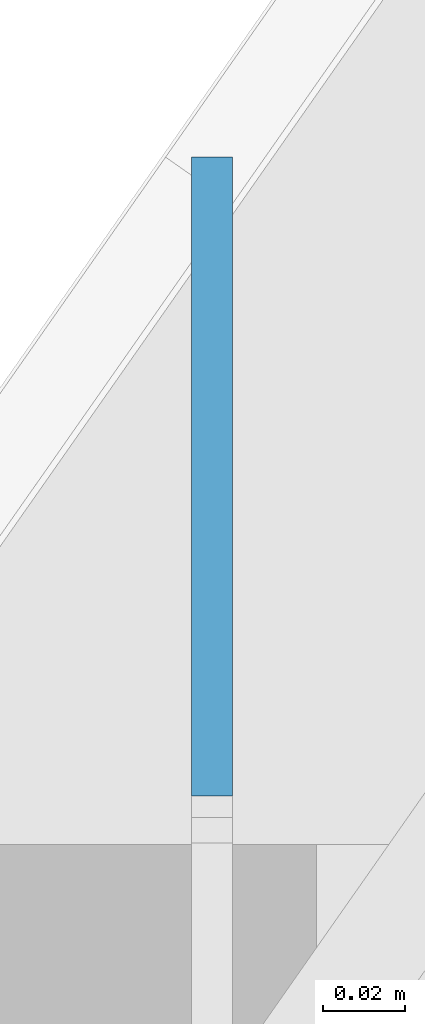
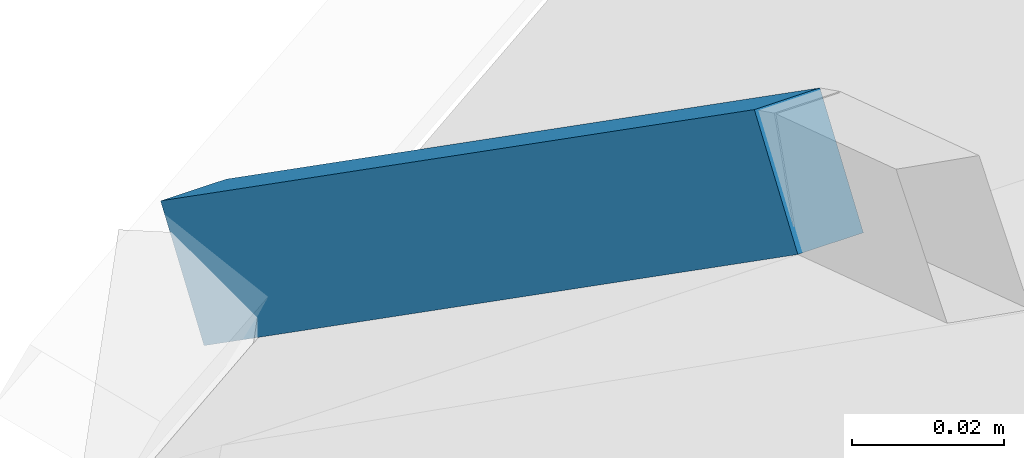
# One storey, part 306 of 583: 1 slab.
"""IFC2X3 building model written with IfcOpenShell, lengths in metres."""

from ifc_helpers import new_model, entity, si_unit, converted_unit, derived_unit, money_unit, direction, frame, origin_with_axes, place, context, subcontext, project, spatial, faceted_brep, material, type_object, element, save


model = new_model("IFC2X3")

# Units and contexts
model_context = context("Model", 3, precision=1e-05, world=origin_with_axes(), true_north=direction((0.0, 1.0)))
body_context = subcontext(model_context, "Body", "Model", "MODEL_VIEW", scale=1.0)
ifc_project = project(units=[si_unit("LENGTHUNIT", "METRE"), si_unit("AREAUNIT", "SQUARE_METRE"), si_unit("VOLUMEUNIT", "CUBIC_METRE"), si_unit("ABSORBEDDOSEUNIT", "GRAY"), si_unit("AMOUNTOFSUBSTANCEUNIT", "MOLE"), si_unit("DOSEEQUIVALENTUNIT", "SIEVERT"), si_unit("ELECTRICCAPACITANCEUNIT", "FARAD"), si_unit("ELECTRICCHARGEUNIT", "COULOMB"), si_unit("ELECTRICCONDUCTANCEUNIT", "SIEMENS"), si_unit("ELECTRICCURRENTUNIT", "AMPERE"), si_unit("ELECTRICRESISTANCEUNIT", "OHM"), si_unit("ELECTRICVOLTAGEUNIT", "VOLT"), si_unit("ENERGYUNIT", "JOULE"), si_unit("FORCEUNIT", "NEWTON"), si_unit("FREQUENCYUNIT", "HERTZ"), si_unit("ILLUMINANCEUNIT", "LUX"), si_unit("INDUCTANCEUNIT", "HENRY"), si_unit("LUMINOUSFLUXUNIT", "LUMEN"), si_unit("LUMINOUSINTENSITYUNIT", "CANDELA"), si_unit("MAGNETICFLUXDENSITYUNIT", "TESLA"), si_unit("MAGNETICFLUXUNIT", "WEBER"), si_unit("MASSUNIT", "GRAM"), converted_unit("PLANEANGLEUNIT", "degree", entity("IfcReal", 0.0174532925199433), si_unit("PLANEANGLEUNIT", "RADIAN"), dimensions=[0, 0, 0, 0, 0, 0, 0]), si_unit("POWERUNIT", "WATT"), si_unit("PRESSUREUNIT", "PASCAL"), si_unit("RADIOACTIVITYUNIT", "BECQUEREL"), si_unit("SOLIDANGLEUNIT", "STERADIAN"), si_unit("THERMODYNAMICTEMPERATUREUNIT", "KELVIN"), si_unit("TIMEUNIT", "SECOND"), derived_unit("ACCELERATIONUNIT", [(si_unit("LENGTHUNIT", "METRE"), 1), (si_unit("TIMEUNIT", "SECOND"), -2)]), derived_unit("ANGULARVELOCITYUNIT", [(converted_unit("PLANEANGLEUNIT", "degree", entity("IfcReal", 0.0174532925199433), si_unit("PLANEANGLEUNIT", "RADIAN"), dimensions=[0, 0, 0, 0, 0, 0, 0]), 1), (si_unit("TIMEUNIT", "SECOND"), -1)]), derived_unit("CURVATUREUNIT", [(converted_unit("PLANEANGLEUNIT", "degree", entity("IfcReal", 0.0174532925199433), si_unit("PLANEANGLEUNIT", "RADIAN"), dimensions=[0, 0, 0, 0, 0, 0, 0]), 1), (si_unit("LENGTHUNIT", "METRE"), -1)]), derived_unit("DYNAMICVISCOSITYUNIT", [(si_unit("PRESSUREUNIT", "PASCAL"), 1), (si_unit("TIMEUNIT", "SECOND"), 1)]), derived_unit("HEATFLUXDENSITYUNIT", [(si_unit("POWERUNIT", "WATT"), 1), (si_unit("LENGTHUNIT", "METRE"), -2)]), derived_unit("HEATINGVALUEUNIT", [(si_unit("ENERGYUNIT", "JOULE"), 1), (si_unit("MASSUNIT", "GRAM"), -1)]), derived_unit("INTEGERCOUNTRATEUNIT", [(si_unit("TIMEUNIT", "SECOND"), -1)]), derived_unit("IONCONCENTRATIONUNIT", [(si_unit("MASSUNIT", "GRAM"), 1), (si_unit("VOLUMEUNIT", "CUBIC_METRE"), -1)]), derived_unit("ISOTHERMALMOISTURECAPACITYUNIT", [(si_unit("VOLUMEUNIT", "CUBIC_METRE"), 1), (si_unit("MASSUNIT", "GRAM"), -1)]), derived_unit("KINEMATICVISCOSITYUNIT", [(si_unit("AREAUNIT", "SQUARE_METRE"), 1), (si_unit("TIMEUNIT", "SECOND"), -1)]), derived_unit("LINEARFORCEUNIT", [(si_unit("FORCEUNIT", "NEWTON"), 1), (si_unit("LENGTHUNIT", "METRE"), -1)]), derived_unit("LINEARMOMENTUNIT", [(si_unit("FORCEUNIT", "NEWTON"), 1), (si_unit("LENGTHUNIT", "METRE"), -1)]), derived_unit("LINEARSTIFFNESSUNIT", [(si_unit("FORCEUNIT", "NEWTON"), 1), (si_unit("LENGTHUNIT", "METRE"), -1)]), derived_unit("LINEARVELOCITYUNIT", [(si_unit("LENGTHUNIT", "METRE"), 1), (si_unit("TIMEUNIT", "SECOND"), -1)]), derived_unit("LUMINOUSINTENSITYDISTRIBUTIONUNIT", [(si_unit("LUMINOUSINTENSITYUNIT", "CANDELA"), 1), (si_unit("LUMINOUSFLUXUNIT", "LUMEN"), -1)]), derived_unit("MASSDENSITYUNIT", [(si_unit("MASSUNIT", "GRAM"), 1), (si_unit("VOLUMEUNIT", "CUBIC_METRE"), -1)]), derived_unit("MASSFLOWRATEUNIT", [(si_unit("MASSUNIT", "GRAM"), 1), (si_unit("TIMEUNIT", "SECOND"), -1)]), derived_unit("MASSPERLENGTHUNIT", [(si_unit("MASSUNIT", "GRAM"), 1), (si_unit("LENGTHUNIT", "METRE"), -1)]), derived_unit("MODULUSOFELASTICITYUNIT", [(si_unit("FORCEUNIT", "NEWTON"), 1), (si_unit("AREAUNIT", "SQUARE_METRE"), -1)]), derived_unit("MODULUSOFLINEARSUBGRADEREACTIONUNIT", [(si_unit("FORCEUNIT", "NEWTON"), 1), (si_unit("LENGTHUNIT", "METRE"), -2)]), derived_unit("MODULUSOFROTATIONALSUBGRADEREACTIONUNIT", [(si_unit("FORCEUNIT", "NEWTON"), 1), (si_unit("LENGTHUNIT", "METRE"), 1)]), derived_unit("MODULUSOFSUBGRADEREACTIONUNIT", [(si_unit("FORCEUNIT", "NEWTON"), 1), (si_unit("VOLUMEUNIT", "CUBIC_METRE"), -1)]), derived_unit("MOISTUREDIFFUSIVITYUNIT", [(si_unit("VOLUMEUNIT", "CUBIC_METRE"), 1), (si_unit("TIMEUNIT", "SECOND"), -1)]), derived_unit("MOLECULARWEIGHTUNIT", [(si_unit("MASSUNIT", "GRAM"), 1), (si_unit("AMOUNTOFSUBSTANCEUNIT", "MOLE"), -1)]), derived_unit("PLANARFORCEUNIT", [(si_unit("FORCEUNIT", "NEWTON"), 1), (si_unit("LENGTHUNIT", "METRE"), -2)]), derived_unit("ROTATIONALFREQUENCYUNIT", [(si_unit("TIMEUNIT", "SECOND"), -1)]), derived_unit("ROTATIONALMASSUNIT", [(si_unit("MASSUNIT", "GRAM"), 1), (si_unit("LENGTHUNIT", "METRE"), 2)]), derived_unit("ROTATIONALSTIFFNESSUNIT", [(si_unit("FORCEUNIT", "NEWTON"), 1), (si_unit("LENGTHUNIT", "METRE"), 1), (converted_unit("PLANEANGLEUNIT", "degree", entity("IfcReal", 0.0174532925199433), si_unit("PLANEANGLEUNIT", "RADIAN"), dimensions=[0, 0, 0, 0, 0, 0, 0]), -1)]), derived_unit("SECTIONAREAINTEGRALUNIT", [(si_unit("LENGTHUNIT", "METRE"), 5)]), derived_unit("SECTIONMODULUSUNIT", [(si_unit("LENGTHUNIT", "METRE"), 3)]), derived_unit("SHEARMODULUSUNIT", [(si_unit("FORCEUNIT", "NEWTON"), 1), (si_unit("AREAUNIT", "SQUARE_METRE"), -1)]), derived_unit("SOUNDPOWERUNIT", [(si_unit("ENERGYUNIT", "JOULE"), 1), (si_unit("TIMEUNIT", "SECOND"), -1)]), derived_unit("SPECIFICHEATCAPACITYUNIT", [(si_unit("FORCEUNIT", "NEWTON"), 1), (si_unit("MASSUNIT", "GRAM"), -1), (si_unit("THERMODYNAMICTEMPERATUREUNIT", "KELVIN"), -1)]), derived_unit("TEMPERATUREGRADIENTUNIT", [(si_unit("THERMODYNAMICTEMPERATUREUNIT", "KELVIN"), 1), (si_unit("LENGTHUNIT", "METRE"), -1)]), derived_unit("THERMALADMITTANCEUNIT", [(si_unit("POWERUNIT", "WATT"), 1), (si_unit("AREAUNIT", "SQUARE_METRE"), -1), (si_unit("THERMODYNAMICTEMPERATUREUNIT", "KELVIN"), -1)]), derived_unit("THERMALCONDUCTANCEUNIT", [(si_unit("POWERUNIT", "WATT"), 1), (si_unit("LENGTHUNIT", "METRE"), -1), (si_unit("THERMODYNAMICTEMPERATUREUNIT", "KELVIN"), -1)]), derived_unit("THERMALEXPANSIONCOEFFICIENTUNIT", [(si_unit("THERMODYNAMICTEMPERATUREUNIT", "KELVIN"), -1)]), derived_unit("THERMALRESISTANCEUNIT", [(si_unit("AREAUNIT", "SQUARE_METRE"), 1), (si_unit("POWERUNIT", "WATT"), -1)]), derived_unit("THERMALTRANSMITTANCEUNIT", [(si_unit("POWERUNIT", "WATT"), 1), (si_unit("AREAUNIT", "SQUARE_METRE"), -1), (si_unit("THERMODYNAMICTEMPERATUREUNIT", "KELVIN"), -1)]), derived_unit("TORQUEUNIT", [(si_unit("FORCEUNIT", "NEWTON"), 1), (si_unit("LENGTHUNIT", "METRE"), 1)]), derived_unit("VAPORPERMEABILITYUNIT", [(si_unit("MASSUNIT", "GRAM"), 1), (si_unit("TIMEUNIT", "SECOND"), -1)]), derived_unit("VOLUMETRICFLOWRATEUNIT", [(si_unit("VOLUMEUNIT", "CUBIC_METRE"), 1), (si_unit("TIMEUNIT", "SECOND"), -1)]), derived_unit("WARPINGCONSTANTUNIT", [(si_unit("LENGTHUNIT", "METRE"), 6)]), derived_unit("WARPINGMOMENTUNIT", [(si_unit("FORCEUNIT", "NEWTON"), 1), (si_unit("LENGTHUNIT", "METRE"), 2)]), money_unit("GBP")], contexts=[model_context])

# Site, building, storey
site_placement = place(None, origin_with_axes())
site = spatial("IfcSite", under=ifc_project, at=site_placement, Name="Site", CompositionType="ELEMENT")
building_placement = place(site_placement, origin_with_axes())
building = spatial("IfcBuilding", under=site, at=building_placement, Name="Building01", CompositionType="ELEMENT")
storey_placement = place(building_placement, frame((0.0, 0.0, 20.78), z_axis=(0.0, 0.0, 1.0), x_axis=(1.0, 0.0, 0.0)))
storey = spatial("IfcBuildingStorey", under=building, at=storey_placement, Name="RL", CompositionType="ELEMENT", Elevation=20.78)

# Slab
ifc_material = material(Name="A_BSUK_Roofs")
slab_type = type_object("IfcSlabType", Name="A-FloorsSlabs A_BSUK_Slabs", PredefinedType="FLOOR")
slab_placement = place(storey_placement, frame((1.443975, 18.780461, 4.86574), z_axis=(0.0, 1.0, 0.0), x_axis=(1.0, 0.0, 0.0)))
element("IfcSlab", 1, at=slab_placement, inside=storey, type_object=slab_type, material=ifc_material, Name="A-FloorsSlabs A_BSUK_Slabs", ObjectType="A-FloorsSlabs A_BSUK_Slabs", context=body_context, shape_type="Brep", body=[
    faceted_brep([(0.0, 0.109715, 0.15669), (0.0, 0.093332, 0.168161), (0.0, -0.016383, 0.011472), (0.0, 0.0, 0.0), (-0.01, -0.016383, 0.011472), (-0.01, 0.0, 0.0), (-0.01, 0.093332, 0.168161), (-0.01, 0.109715, 0.15669)], [[[0, 1, 2, 3]], [[3, 2, 4, 5]], [[5, 4, 6, 7]], [[7, 6, 1, 0]], [[1, 6, 4, 2]], [[3, 5, 7, 0]]]),
])

save(model, "model.ifc")
